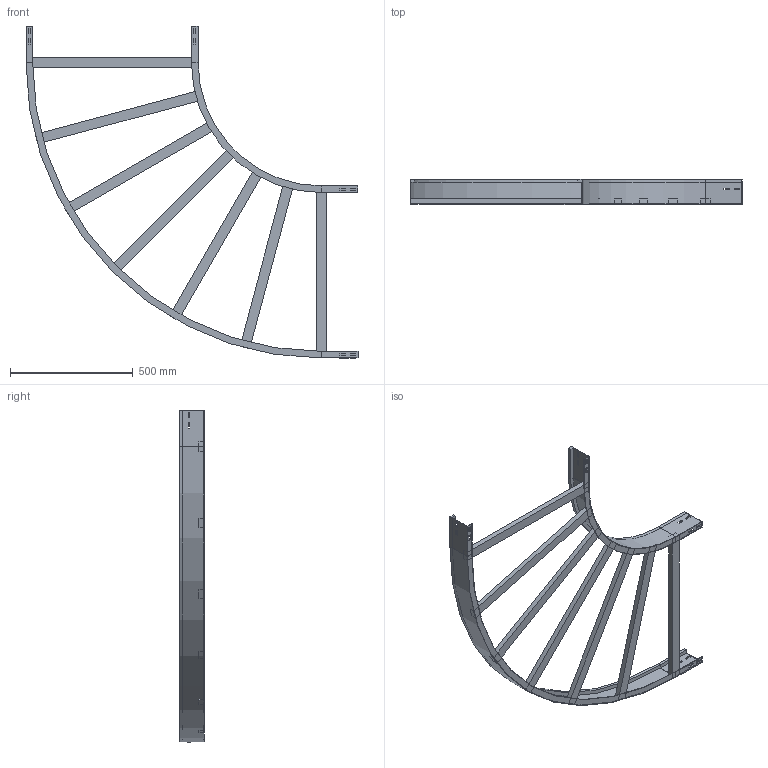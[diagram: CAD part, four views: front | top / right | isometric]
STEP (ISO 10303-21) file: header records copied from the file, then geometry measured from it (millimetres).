
FILE_DESCRIPTION (( 'STEP AP214' ), '1' );
FILE_NAME ('10B5D700.step', '2025-02-21T15:22:32', ( '' ), ( '' ), 'SwSTEP 2.0', 'SolidWorks 2023', '' );
FILE_SCHEMA (( 'AUTOMOTIVE_DESIGN' ));
Length unit declared in the file: millimetre
Products named in the file (4): 10B5D700; TRAVERSINO_700; A2_LONGH.INTERNO 90°_H100_R500; A2_LONGH.ESTERNO 90°_H100_R500+700
Assembly tree (9 placements, depth 2):
  10B5D700
    A2_LONGH.INTERNO 90°_H100_R500
    A2_LONGH.ESTERNO 90°_H100_R500+700
    TRAVERSINO_700  x7
Bounding box: 1350 x 100 x 1350 mm (x, y, z)
Volume: 5386888.4 mm3; surface area: 1534869.2 mm2
Topology: 9 solids, 9 shells, 158 faces, 388 edges, 248 vertices
Faces by surface type: plane 150, cylinder 8
Entity records: 3853 total; most frequent: CARTESIAN_POINT 650, ORIENTED_EDGE 632, DIRECTION 600, EDGE_CURVE 316, LINE 300, VECTOR 300, VERTEX_POINT 200, EDGE_LOOP 154
